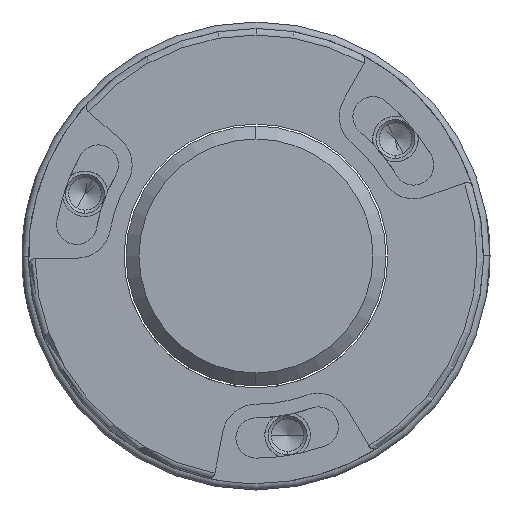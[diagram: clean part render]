
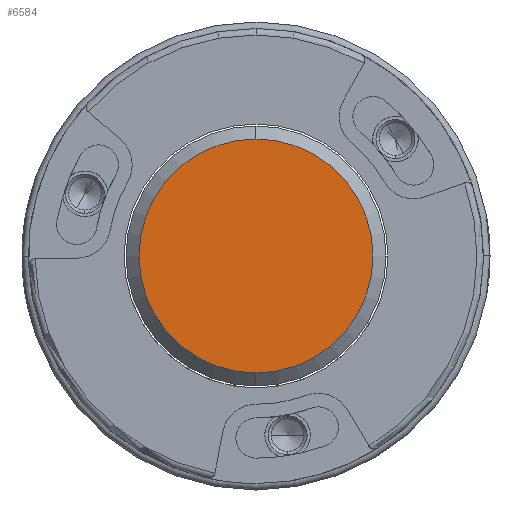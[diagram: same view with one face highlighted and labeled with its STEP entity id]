
A CAD part, left-side view. The second image highlights one B-rep face of the part: STEP entity #6584.
In plain terms, the highlighted planar face has unit normal (-1, 0, 0).
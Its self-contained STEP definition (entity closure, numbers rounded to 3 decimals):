
#41 = DIRECTION ( 'NONE',  ( 0., 0., 1. ) ) ;
#86 = FACE_OUTER_BOUND ( 'NONE', #3242, .T. ) ;
#285 = CIRCLE ( 'NONE', #5536, 9. ) ;
#337 = EDGE_CURVE ( 'NONE', #3013, #399, #285, .T. ) ;
#399 = VERTEX_POINT ( 'NONE', #457 ) ;
#457 = CARTESIAN_POINT ( 'NONE',  ( -10., 0., -9. ) ) ;
#690 = CARTESIAN_POINT ( 'NONE',  ( -10., 0., 0. ) ) ;
#2310 = CIRCLE ( 'NONE', #4505, 9. ) ;
#2828 = DIRECTION ( 'NONE',  ( -1., 0., 0. ) ) ;
#3013 = VERTEX_POINT ( 'NONE', #3948 ) ;
#3043 = ORIENTED_EDGE ( 'NONE', *, *, #337, .T. ) ;
#3242 = EDGE_LOOP ( 'NONE', ( #5636, #3043 ) ) ;
#3416 = DIRECTION ( 'NONE',  ( -1., 0., 0. ) ) ;
#3948 = CARTESIAN_POINT ( 'NONE',  ( -10., 0., 9. ) ) ;
#4505 = AXIS2_PLACEMENT_3D ( 'NONE', #690, #2828, #4565 ) ;
#4565 = DIRECTION ( 'NONE',  ( 0., 0., 1. ) ) ;
#4762 = DIRECTION ( 'NONE',  ( 0., 0., 1. ) ) ;
#5020 = CARTESIAN_POINT ( 'NONE',  ( -10., 0., 0. ) ) ;
#5480 = EDGE_CURVE ( 'NONE', #399, #3013, #2310, .T. ) ;
#5536 = AXIS2_PLACEMENT_3D ( 'NONE', #7031, #5858, #4762 ) ;
#5565 = AXIS2_PLACEMENT_3D ( 'NONE', #5020, #3416, #41 ) ;
#5636 = ORIENTED_EDGE ( 'NONE', *, *, #5480, .T. ) ;
#5858 = DIRECTION ( 'NONE',  ( -1., 0., 0. ) ) ;
#6584 = ADVANCED_FACE ( 'NONE', ( #86 ), #6798, .T. ) ;
#6798 = PLANE ( 'NONE',  #5565 ) ;
#7031 = CARTESIAN_POINT ( 'NONE',  ( -10., 0., 0. ) ) ;
